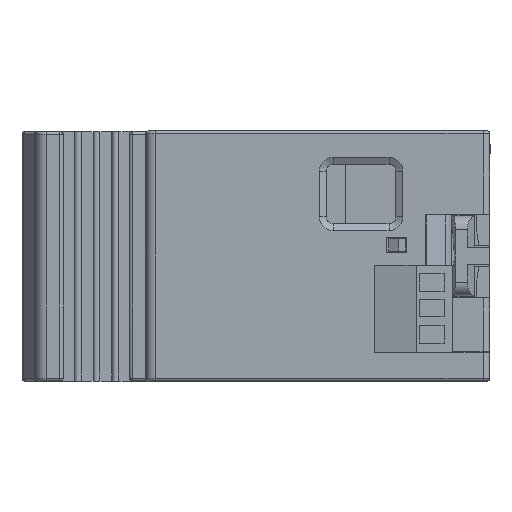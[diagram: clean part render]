
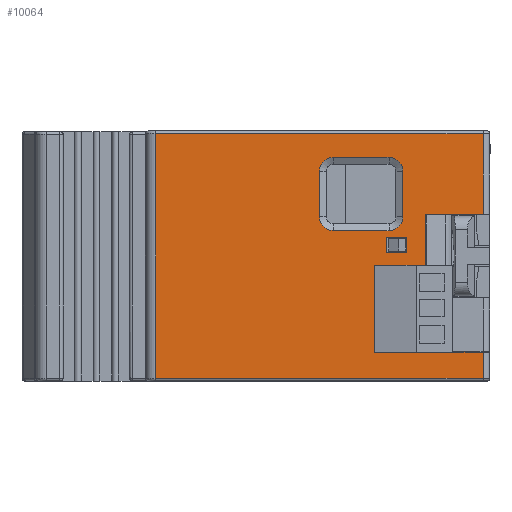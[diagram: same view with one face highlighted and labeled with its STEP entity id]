
A CAD part, left-side view. The second image highlights one B-rep face of the part: STEP entity #10064.
In plain terms, the highlighted planar face has unit normal (-1, 0, 0).
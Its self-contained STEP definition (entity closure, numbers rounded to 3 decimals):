
#1905=PLANE('',#31536);
#3562=LINE('',#43555,#6856);
#3581=LINE('',#43607,#6875);
#3584=LINE('',#43612,#6878);
#3617=LINE('',#43694,#6911);
#4946=LINE('',#49966,#8324);
#4947=LINE('',#49969,#8325);
#4948=LINE('',#49971,#8326);
#4949=LINE('',#49973,#8327);
#4950=LINE('',#49975,#8328);
#4951=LINE('',#49976,#8329);
#4952=LINE('',#49977,#8330);
#4953=LINE('',#49982,#8331);
#4954=LINE('',#49986,#8332);
#4955=LINE('',#49990,#8333);
#4956=LINE('',#49993,#8334);
#4957=LINE('',#49996,#8335);
#4958=LINE('',#49998,#8336);
#4959=LINE('',#50000,#8337);
#6856=VECTOR('',#35339,1.);
#6875=VECTOR('',#35376,1.);
#6878=VECTOR('',#35381,1.);
#6911=VECTOR('',#35444,1.);
#8324=VECTOR('',#38139,1.);
#8325=VECTOR('',#38140,1.);
#8326=VECTOR('',#38141,1.);
#8327=VECTOR('',#38142,1.);
#8328=VECTOR('',#38143,1.);
#8329=VECTOR('',#38144,1.);
#8330=VECTOR('',#38145,1.);
#8331=VECTOR('',#38148,1.);
#8332=VECTOR('',#38151,1.);
#8333=VECTOR('',#38154,1.);
#8334=VECTOR('',#38157,1.);
#8335=VECTOR('',#38158,1.);
#8336=VECTOR('',#38159,1.);
#8337=VECTOR('',#38160,1.);
#10064=ADVANCED_FACE('',(#11679,#12164,#12165),#1905,.T.);
#11679=FACE_OUTER_BOUND('',#13532,.T.);
#12164=FACE_BOUND('',#13533,.T.);
#12165=FACE_BOUND('',#13534,.T.);
#13532=EDGE_LOOP('',(#20498,#20499,#20500,#20501,#20502,#20503,#20504,#20505,
#20506,#20507));
#13533=EDGE_LOOP('',(#20508,#20509,#20510,#20511,#20512,#20513,#20514,#20515));
#13534=EDGE_LOOP('',(#20516,#20517,#20518,#20519));
#20498=ORIENTED_EDGE('',*,*,#28644,.T.);
#20499=ORIENTED_EDGE('',*,*,#28645,.T.);
#20500=ORIENTED_EDGE('',*,*,#28646,.T.);
#20501=ORIENTED_EDGE('',*,*,#28647,.T.);
#20502=ORIENTED_EDGE('',*,*,#28648,.T.);
#20503=ORIENTED_EDGE('',*,*,#26854,.F.);
#20504=ORIENTED_EDGE('',*,*,#26881,.T.);
#20505=ORIENTED_EDGE('',*,*,#26878,.T.);
#20506=ORIENTED_EDGE('',*,*,#26921,.T.);
#20507=ORIENTED_EDGE('',*,*,#28649,.T.);
#20508=ORIENTED_EDGE('',*,*,#28650,.T.);
#20509=ORIENTED_EDGE('',*,*,#28651,.T.);
#20510=ORIENTED_EDGE('',*,*,#28652,.T.);
#20511=ORIENTED_EDGE('',*,*,#28653,.T.);
#20512=ORIENTED_EDGE('',*,*,#28654,.T.);
#20513=ORIENTED_EDGE('',*,*,#28655,.T.);
#20514=ORIENTED_EDGE('',*,*,#28656,.T.);
#20515=ORIENTED_EDGE('',*,*,#28657,.T.);
#20516=ORIENTED_EDGE('',*,*,#28658,.F.);
#20517=ORIENTED_EDGE('',*,*,#28659,.T.);
#20518=ORIENTED_EDGE('',*,*,#28660,.T.);
#20519=ORIENTED_EDGE('',*,*,#28661,.F.);
#23505=VERTEX_POINT('',#43554);
#23506=VERTEX_POINT('',#43556);
#23529=VERTEX_POINT('',#43606);
#23530=VERTEX_POINT('',#43608);
#23564=VERTEX_POINT('',#43693);
#24749=VERTEX_POINT('',#49967);
#24750=VERTEX_POINT('',#49968);
#24751=VERTEX_POINT('',#49970);
#24752=VERTEX_POINT('',#49972);
#24753=VERTEX_POINT('',#49974);
#24754=VERTEX_POINT('',#49978);
#24755=VERTEX_POINT('',#49979);
#24756=VERTEX_POINT('',#49981);
#24757=VERTEX_POINT('',#49983);
#24758=VERTEX_POINT('',#49985);
#24759=VERTEX_POINT('',#49987);
#24760=VERTEX_POINT('',#49989);
#24761=VERTEX_POINT('',#49991);
#24762=VERTEX_POINT('',#49994);
#24763=VERTEX_POINT('',#49995);
#24764=VERTEX_POINT('',#49997);
#24765=VERTEX_POINT('',#49999);
#26854=EDGE_CURVE('',#23505,#23506,#3562,.T.);
#26878=EDGE_CURVE('',#23530,#23529,#3581,.T.);
#26881=EDGE_CURVE('',#23505,#23530,#3584,.T.);
#26921=EDGE_CURVE('',#23529,#23564,#3617,.T.);
#28644=EDGE_CURVE('',#24749,#24750,#4946,.T.);
#28645=EDGE_CURVE('',#24750,#24751,#4947,.T.);
#28646=EDGE_CURVE('',#24751,#24752,#4948,.T.);
#28647=EDGE_CURVE('',#24752,#24753,#4949,.T.);
#28648=EDGE_CURVE('',#24753,#23506,#4950,.T.);
#28649=EDGE_CURVE('',#23564,#24749,#4951,.T.);
#28650=EDGE_CURVE('',#24754,#24755,#4952,.T.);
#28651=EDGE_CURVE('',#24755,#24756,#29778,.T.);
#28652=EDGE_CURVE('',#24756,#24757,#4953,.T.);
#28653=EDGE_CURVE('',#24757,#24758,#29779,.T.);
#28654=EDGE_CURVE('',#24758,#24759,#4954,.T.);
#28655=EDGE_CURVE('',#24759,#24760,#29780,.T.);
#28656=EDGE_CURVE('',#24760,#24761,#4955,.T.);
#28657=EDGE_CURVE('',#24761,#24754,#29781,.T.);
#28658=EDGE_CURVE('',#24762,#24763,#4956,.T.);
#28659=EDGE_CURVE('',#24762,#24764,#4957,.T.);
#28660=EDGE_CURVE('',#24764,#24765,#4958,.T.);
#28661=EDGE_CURVE('',#24763,#24765,#4959,.T.);
#29778=CIRCLE('',#31532,2.);
#29779=CIRCLE('',#31533,2.);
#29780=CIRCLE('',#31534,2.);
#29781=CIRCLE('',#31535,2.);
#31532=AXIS2_PLACEMENT_3D('',#49980,#38146,#38147);
#31533=AXIS2_PLACEMENT_3D('',#49984,#38149,#38150);
#31534=AXIS2_PLACEMENT_3D('',#49988,#38152,#38153);
#31535=AXIS2_PLACEMENT_3D('',#49992,#38155,#38156);
#31536=AXIS2_PLACEMENT_3D('',#50001,#38161,#38162);
#35339=DIRECTION('',(0.,-1.,0.));
#35376=DIRECTION('',(0.,-1.,0.));
#35381=DIRECTION('',(0.,0.,1.));
#35444=DIRECTION('',(0.,0.,1.));
#38139=DIRECTION('',(0.,0.,1.));
#38140=DIRECTION('',(0.,1.,0.));
#38141=DIRECTION('',(0.,0.,-1.));
#38142=DIRECTION('',(0.,-1.,0.));
#38143=DIRECTION('',(0.,0.,1.));
#38144=DIRECTION('',(0.,-1.,0.));
#38145=DIRECTION('',(0.,0.,1.));
#38146=DIRECTION('',(1.,0.,0.));
#38147=DIRECTION('',(0.,0.,1.));
#38148=DIRECTION('',(0.,-1.,0.));
#38149=DIRECTION('',(1.,0.,0.));
#38150=DIRECTION('',(0.,0.,1.));
#38151=DIRECTION('',(0.,0.,-1.));
#38152=DIRECTION('',(1.,0.,0.));
#38153=DIRECTION('',(0.,0.,1.));
#38154=DIRECTION('',(0.,1.,0.));
#38155=DIRECTION('',(1.,0.,0.));
#38156=DIRECTION('',(0.,0.,1.));
#38157=DIRECTION('',(0.,-1.,0.));
#38158=DIRECTION('',(0.,0.,1.));
#38159=DIRECTION('',(0.,-1.,0.));
#38160=DIRECTION('',(0.,0.,1.));
#38161=DIRECTION('',(-1.,0.,0.));
#38162=DIRECTION('',(0.,0.,1.));
#43554=CARTESIAN_POINT('',(0.,16.25,4.15));
#43555=CARTESIAN_POINT('',(0.,24.75,4.15));
#43556=CARTESIAN_POINT('',(0.,1.,4.15));
#43606=CARTESIAN_POINT('',(0.,9.2,16.55));
#43607=CARTESIAN_POINT('',(0.,0.,16.55));
#43608=CARTESIAN_POINT('',(0.,16.25,16.55));
#43612=CARTESIAN_POINT('',(0.,16.25,15.85));
#43693=CARTESIAN_POINT('',(0.,9.2,23.95));
#43694=CARTESIAN_POINT('',(0.,9.2,24.));
#49966=CARTESIAN_POINT('',(0.,1.,0.));
#49967=CARTESIAN_POINT('',(0.,1.,23.95));
#49968=CARTESIAN_POINT('',(0.,1.,35.5));
#49969=CARTESIAN_POINT('',(0.,48.,35.5));
#49970=CARTESIAN_POINT('',(0.,48.,35.5));
#49971=CARTESIAN_POINT('',(0.,48.,0.));
#49972=CARTESIAN_POINT('',(0.,48.,0.4));
#49973=CARTESIAN_POINT('',(0.,24.75,0.4));
#49974=CARTESIAN_POINT('',(0.,1.,0.4));
#49975=CARTESIAN_POINT('',(0.,1.,0.));
#49976=CARTESIAN_POINT('',(0.,0.,23.95));
#49977=CARTESIAN_POINT('',(0.,24.5,30.1));
#49978=CARTESIAN_POINT('',(0.,24.5,23.6));
#49979=CARTESIAN_POINT('',(0.,24.5,30.1));
#49980=CARTESIAN_POINT('',(0.,22.5,30.1));
#49981=CARTESIAN_POINT('',(0.,22.5,32.1));
#49982=CARTESIAN_POINT('',(0.,14.5,32.1));
#49983=CARTESIAN_POINT('',(0.,14.5,32.1));
#49984=CARTESIAN_POINT('',(0.,14.5,30.1));
#49985=CARTESIAN_POINT('',(0.,12.5,30.1));
#49986=CARTESIAN_POINT('',(0.,12.5,23.6));
#49987=CARTESIAN_POINT('',(0.,12.5,23.6));
#49988=CARTESIAN_POINT('',(0.,14.5,23.6));
#49989=CARTESIAN_POINT('',(0.,14.5,21.6));
#49990=CARTESIAN_POINT('',(0.,22.5,21.6));
#49991=CARTESIAN_POINT('',(0.,22.5,21.6));
#49992=CARTESIAN_POINT('',(0.,22.5,23.6));
#49993=CARTESIAN_POINT('',(0.,24.75,18.45));
#49994=CARTESIAN_POINT('',(0.,14.9,18.45));
#49995=CARTESIAN_POINT('',(0.,11.95,18.45));
#49996=CARTESIAN_POINT('',(0.,14.9,20.05));
#49997=CARTESIAN_POINT('',(0.,14.9,20.65));
#49998=CARTESIAN_POINT('',(0.,12.5,20.65));
#49999=CARTESIAN_POINT('',(0.,11.95,20.65));
#50000=CARTESIAN_POINT('',(0.,11.95,0.));
#50001=CARTESIAN_POINT('',(0.,24.75,0.));
